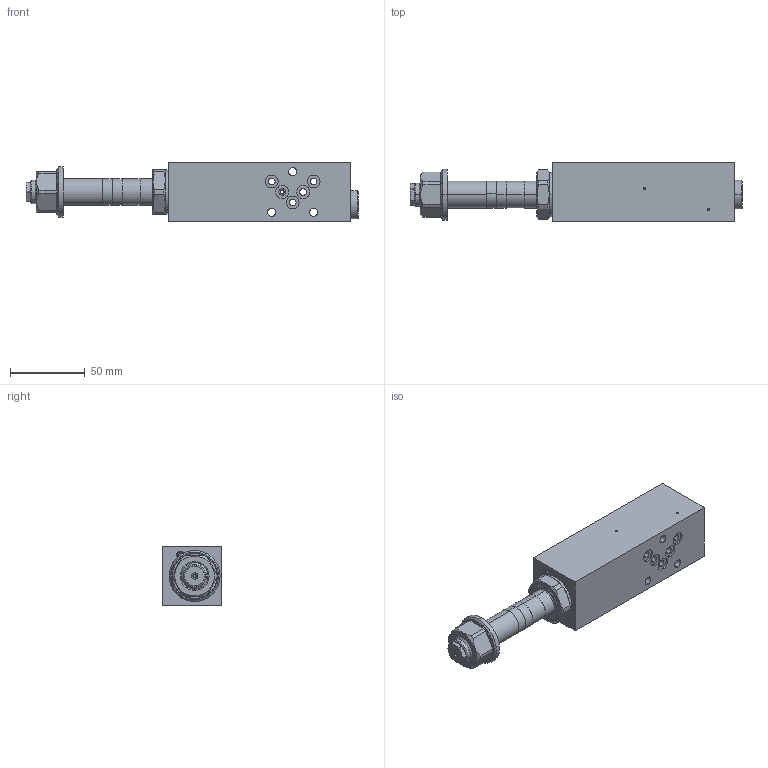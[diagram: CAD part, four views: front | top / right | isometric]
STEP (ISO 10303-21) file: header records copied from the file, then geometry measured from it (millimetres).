
FILE_DESCRIPTION (( 'STEP AP214' ), '1' );
FILE_NAME ('M.BSA04-A.STEP', '2017-03-31T06:12:57', ( '' ), ( '' ), 'SwSTEP 2.0', 'SolidWorks 2016', '' );
FILE_SCHEMA (( 'AUTOMOTIVE_DESIGN' ));
Length unit declared in the file: millimetre
Products named in the file (1): M.BSA04-A
Bounding box: 222 x 39.5 x 40 mm (x, y, z)
Volume: 222395.2 mm3; surface area: 39947.8 mm2
Topology: 5 solids, 11 shells, 390 faces, 934 edges, 577 vertices
Faces by surface type: plane 132, cylinder 130, cone 102, torus 18, sphere 8
Entity records: 15921 total; most frequent: CARTESIAN_POINT 2488, DIRECTION 2020, ORIENTED_EDGE 1824, EDGE_CURVE 912, AXIS2_PLACEMENT_3D 817, VERTEX_POINT 577, EDGE_LOOP 445, CIRCLE 426
